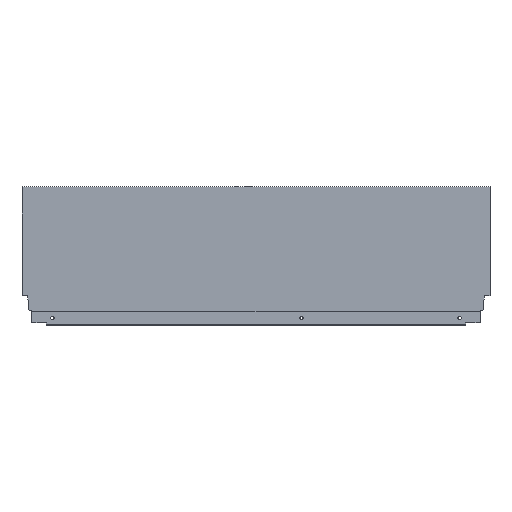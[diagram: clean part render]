
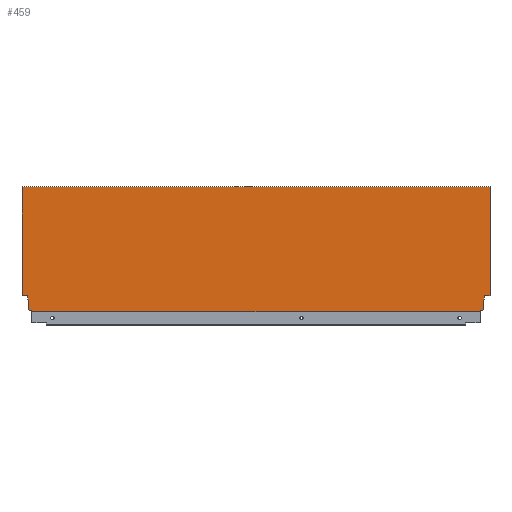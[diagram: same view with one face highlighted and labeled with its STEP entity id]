
A CAD part, top view. The second image highlights one B-rep face of the part: STEP entity #459.
In plain terms, the highlighted planar face has unit normal (0, 0, 1).
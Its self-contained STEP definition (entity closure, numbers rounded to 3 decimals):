
#36 = VECTOR ( 'NONE', #976, 1000. ) ;
#41 = LINE ( 'NONE', #977, #36 ) ;
#45 = LINE ( 'NONE', #834, #46 ) ;
#46 = VECTOR ( 'NONE', #831, 1000. ) ;
#48 = LINE ( 'NONE', #653, #78 ) ;
#49 = LINE ( 'NONE', #1027, #50 ) ;
#50 = VECTOR ( 'NONE', #1026, 1000. ) ;
#52 = LINE ( 'NONE', #830, #74 ) ;
#54 = LINE ( 'NONE', #975, #55 ) ;
#55 = VECTOR ( 'NONE', #979, 1000. ) ;
#56 = LINE ( 'NONE', #985, #57 ) ;
#57 = VECTOR ( 'NONE', #984, 1000. ) ;
#60 = LINE ( 'NONE', #973, #61 ) ;
#61 = VECTOR ( 'NONE', #967, 1000. ) ;
#62 = LINE ( 'NONE', #969, #63 ) ;
#63 = VECTOR ( 'NONE', #968, 1000. ) ;
#64 = LINE ( 'NONE', #971, #65 ) ;
#65 = VECTOR ( 'NONE', #972, 1000. ) ;
#66 = LINE ( 'NONE', #651, #67 ) ;
#67 = VECTOR ( 'NONE', #649, 1000. ) ;
#68 = LINE ( 'NONE', #840, #69 ) ;
#69 = VECTOR ( 'NONE', #837, 1000. ) ;
#70 = LINE ( 'NONE', #652, #71 ) ;
#71 = VECTOR ( 'NONE', #648, 1000. ) ;
#72 = LINE ( 'NONE', #644, #73 ) ;
#73 = VECTOR ( 'NONE', #841, 1000. ) ;
#74 = VECTOR ( 'NONE', #965, 1000. ) ;
#78 = VECTOR ( 'NONE', #954, 1000. ) ;
#233 = AXIS2_PLACEMENT_3D ( 'NONE', #896, #890, #887 ) ;
#400 = FACE_OUTER_BOUND ( 'NONE', #1322, .T. ) ;
#459 = ADVANCED_FACE ( 'NONE', ( #400 ), #1052, .T. ) ;
#488 = VERTEX_POINT ( 'NONE', #858 ) ;
#489 = VERTEX_POINT ( 'NONE', #859 ) ;
#644 = CARTESIAN_POINT ( 'NONE',  ( -617., 164.7, 7.5 ) ) ;
#648 = DIRECTION ( 'NONE',  ( 0., -1., 0. ) ) ;
#649 = DIRECTION ( 'NONE',  ( 0., 1., 0. ) ) ;
#651 = CARTESIAN_POINT ( 'NONE',  ( -608.1, 10.765, 7.5 ) ) ;
#652 = CARTESIAN_POINT ( 'NONE',  ( -13.004, 1.146, 7.5 ) ) ;
#653 = CARTESIAN_POINT ( 'NONE',  ( 0., 0., 7.5 ) ) ;
#663 = CARTESIAN_POINT ( 'NONE',  ( -13.004, 1.146, 7.5 ) ) ;
#666 = CARTESIAN_POINT ( 'NONE',  ( -8.9, 10.765, 7.5 ) ) ;
#670 = CARTESIAN_POINT ( 'NONE',  ( -7.06, 21.2, 7.5 ) ) ;
#681 = CARTESIAN_POINT ( 'NONE',  ( -603.996, 0., 7.5 ) ) ;
#692 = CARTESIAN_POINT ( 'NONE',  ( -617., 21.2, 7.5 ) ) ;
#693 = CARTESIAN_POINT ( 'NONE',  ( -13.004, 0., 7.5 ) ) ;
#698 = CARTESIAN_POINT ( 'NONE',  ( -603.996, 1.146, 7.5 ) ) ;
#701 = CARTESIAN_POINT ( 'NONE',  ( -608.1, 10.765, 7.5 ) ) ;
#702 = CARTESIAN_POINT ( 'NONE',  ( -609.94, 21.2, 7.5 ) ) ;
#713 = VERTEX_POINT ( 'NONE', #741 ) ;
#741 = CARTESIAN_POINT ( 'NONE',  ( -8.9, 2.64, 7.5 ) ) ;
#747 = CARTESIAN_POINT ( 'NONE',  ( 0., 164.7, 7.5 ) ) ;
#752 = CARTESIAN_POINT ( 'NONE',  ( -617., 164.7, 7.5 ) ) ;
#805 = VERTEX_POINT ( 'NONE', #747 ) ;
#809 = VERTEX_POINT ( 'NONE', #752 ) ;
#830 = CARTESIAN_POINT ( 'NONE',  ( -8.9, 2.64, 7.5 ) ) ;
#831 = DIRECTION ( 'NONE',  ( 1., 0., 0. ) ) ;
#834 = CARTESIAN_POINT ( 'NONE',  ( -617., 0., 7.5 ) ) ;
#837 = DIRECTION ( 'NONE',  ( -1., 0., 0. ) ) ;
#840 = CARTESIAN_POINT ( 'NONE',  ( 0., 21.2, 7.5 ) ) ;
#841 = DIRECTION ( 'NONE',  ( 1., 0., 0. ) ) ;
#858 = CARTESIAN_POINT ( 'NONE',  ( 0., 21.2, 7.5 ) ) ;
#859 = CARTESIAN_POINT ( 'NONE',  ( -608.1, 2.64, 7.5 ) ) ;
#887 = DIRECTION ( 'NONE',  ( 1., 0., 0. ) ) ;
#890 = DIRECTION ( 'NONE',  ( 0., 0., 1. ) ) ;
#896 = CARTESIAN_POINT ( 'NONE',  ( -617., 0., 7.5 ) ) ;
#954 = DIRECTION ( 'NONE',  ( 0., -1., 0. ) ) ;
#965 = DIRECTION ( 'NONE',  ( -0.94, -0.342, 0. ) ) ;
#967 = DIRECTION ( 'NONE',  ( 0., -1., 0. ) ) ;
#968 = DIRECTION ( 'NONE',  ( -1., 0., 0. ) ) ;
#969 = CARTESIAN_POINT ( 'NONE',  ( -622., 21.2, 7.5 ) ) ;
#971 = CARTESIAN_POINT ( 'NONE',  ( -7.06, 21.2, 7.5 ) ) ;
#972 = DIRECTION ( 'NONE',  ( -0.174, -0.985, 0. ) ) ;
#973 = CARTESIAN_POINT ( 'NONE',  ( -8.9, 10.765, 7.5 ) ) ;
#975 = CARTESIAN_POINT ( 'NONE',  ( -603.996, 1.146, 7.5 ) ) ;
#976 = DIRECTION ( 'NONE',  ( -0.94, 0.342, 0. ) ) ;
#977 = CARTESIAN_POINT ( 'NONE',  ( -608.1, 2.64, 7.5 ) ) ;
#979 = DIRECTION ( 'NONE',  ( 0., 1., 0. ) ) ;
#984 = DIRECTION ( 'NONE',  ( 0., -1., 0. ) ) ;
#985 = CARTESIAN_POINT ( 'NONE',  ( -617., 0., 7.5 ) ) ;
#990 = VERTEX_POINT ( 'NONE', #702 ) ;
#1026 = DIRECTION ( 'NONE',  ( -0.174, 0.985, 0. ) ) ;
#1027 = CARTESIAN_POINT ( 'NONE',  ( -609.94, 21.2, 7.5 ) ) ;
#1046 = VERTEX_POINT ( 'NONE', #698 ) ;
#1052 = PLANE ( 'NONE',  #233 ) ;
#1059 = VERTEX_POINT ( 'NONE', #670 ) ;
#1066 = VERTEX_POINT ( 'NONE', #681 ) ;
#1077 = VERTEX_POINT ( 'NONE', #666 ) ;
#1078 = VERTEX_POINT ( 'NONE', #663 ) ;
#1084 = VERTEX_POINT ( 'NONE', #701 ) ;
#1088 = VERTEX_POINT ( 'NONE', #693 ) ;
#1096 = VERTEX_POINT ( 'NONE', #692 ) ;
#1156 = EDGE_CURVE ( 'NONE', #1066, #1088, #45, .T. ) ;
#1158 = EDGE_CURVE ( 'NONE', #1084, #990, #49, .T. ) ;
#1160 = EDGE_CURVE ( 'NONE', #1046, #489, #41, .T. ) ;
#1161 = EDGE_CURVE ( 'NONE', #1066, #1046, #54, .T. ) ;
#1162 = EDGE_CURVE ( 'NONE', #809, #1096, #56, .T. ) ;
#1164 = EDGE_CURVE ( 'NONE', #1077, #713, #60, .T. ) ;
#1165 = EDGE_CURVE ( 'NONE', #990, #1096, #62, .T. ) ;
#1166 = EDGE_CURVE ( 'NONE', #1059, #1077, #64, .T. ) ;
#1167 = EDGE_CURVE ( 'NONE', #489, #1084, #66, .T. ) ;
#1168 = EDGE_CURVE ( 'NONE', #488, #1059, #68, .T. ) ;
#1169 = EDGE_CURVE ( 'NONE', #1078, #1088, #70, .T. ) ;
#1170 = EDGE_CURVE ( 'NONE', #809, #805, #72, .T. ) ;
#1171 = EDGE_CURVE ( 'NONE', #713, #1078, #52, .T. ) ;
#1173 = EDGE_CURVE ( 'NONE', #805, #488, #48, .T. ) ;
#1322 = EDGE_LOOP ( 'NONE', ( #1496, #1488, #1489, #1519, #1526, #1456, #1413, #1449, #1428, #1426, #1405, #1406, #1400, #1461 ) ) ;
#1400 = ORIENTED_EDGE ( 'NONE', *, *, #1173, .F. ) ;
#1405 = ORIENTED_EDGE ( 'NONE', *, *, #1166, .F. ) ;
#1406 = ORIENTED_EDGE ( 'NONE', *, *, #1168, .F. ) ;
#1413 = ORIENTED_EDGE ( 'NONE', *, *, #1156, .T. ) ;
#1426 = ORIENTED_EDGE ( 'NONE', *, *, #1164, .F. ) ;
#1428 = ORIENTED_EDGE ( 'NONE', *, *, #1171, .F. ) ;
#1449 = ORIENTED_EDGE ( 'NONE', *, *, #1169, .F. ) ;
#1456 = ORIENTED_EDGE ( 'NONE', *, *, #1161, .F. ) ;
#1461 = ORIENTED_EDGE ( 'NONE', *, *, #1170, .F. ) ;
#1488 = ORIENTED_EDGE ( 'NONE', *, *, #1165, .F. ) ;
#1489 = ORIENTED_EDGE ( 'NONE', *, *, #1158, .F. ) ;
#1496 = ORIENTED_EDGE ( 'NONE', *, *, #1162, .T. ) ;
#1519 = ORIENTED_EDGE ( 'NONE', *, *, #1167, .F. ) ;
#1526 = ORIENTED_EDGE ( 'NONE', *, *, #1160, .F. ) ;
